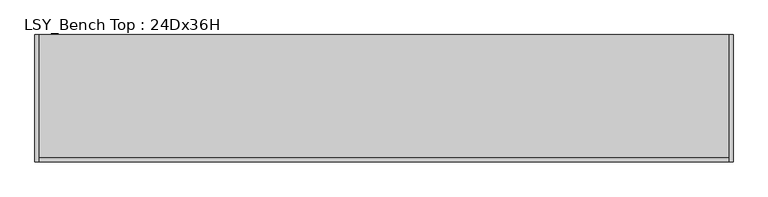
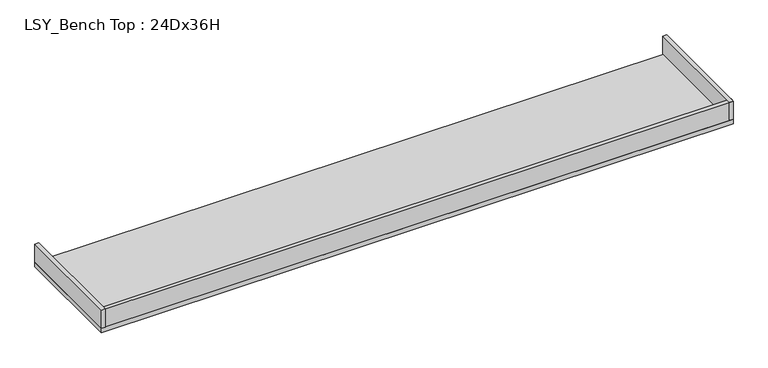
"""IFC4 building model written with IfcOpenShell, lengths in millimetres: furniture geometry, LSY_Bench Top : 24Dx36H."""

from ifc_helpers import new_model, si_unit, frame, origin, place, context, project, spatial, polyline, outline, extrude, source, transform, mapped, element, save


def lsy_bench_top_24dx36h_1d034a2a(model_context):
    return source(origin(), model_context, "Body", "SweptSolid", [
        extrude(outline(polyline([(2141.0627049, 615.0), (2122.0627049, 615.0), (2122.0627049, 1224.6), (2141.0627049, 1224.6), (2141.0627049, 615.0)])), frame((0.0, 0.0, 914.4), z_axis=(0.0, 0.0, 1.0), x_axis=(1.0, 0.0, 0.0)), (0.0, 0.0, 1.0), 102.0),
        extrude(outline(polyline([(-1200.4622951, 615.0), (-1200.4622951, 1224.6), (-1181.4622951, 1224.6), (-1181.4622951, 615.0), (-1200.4622951, 615.0)])), frame((0.0, 0.0, 914.4), z_axis=(0.0, 0.0, 1.0), x_axis=(1.0, 0.0, 0.0)), (0.0, 0.0, 1.0), 102.0),
        extrude(outline(polyline([(2141.0627049, 615.0), (-1200.4622951, 615.0), (-1200.4622951, 1224.6), (2141.0627049, 1224.6), (2141.0627049, 615.0)])), frame((0.0, 0.0, 889.0), z_axis=(0.0, 0.0, 1.0), x_axis=(1.0, 0.0, 0.0)), (0.0, 0.0, 1.0), 25.4),
        extrude(outline(polyline([(2141.0627049, 615.0), (-1200.4622951, 615.0), (-1200.4622951, 634.0), (2141.0627049, 634.0), (2141.0627049, 615.0)])), frame((0.0, 0.0, 914.4), z_axis=(0.0, 0.0, 1.0), x_axis=(1.0, 0.0, 0.0)), (0.0, 0.0, 1.0), 102.0),
    ])


if __name__ == "__main__":
    model = new_model("IFC4")
    model_context = context("Model", 3, world=origin())
    ifc_project = project(units=[si_unit("LENGTHUNIT", "METRE", prefix="MILLI")], contexts=[model_context])
    site = spatial("IfcSite", under=ifc_project)
    building = spatial("IfcBuilding", under=site)
    placement = place(None, origin())
    lsy_bench_top_24dx36h_shape = lsy_bench_top_24dx36h_1d034a2a(model_context)
    element("IfcFurniture", 1, ObjectType="LSY_Bench Top : 24Dx36H", at=placement, inside=building, context=model_context, shape_type="MappedRepresentation", body=[
        mapped(lsy_bench_top_24dx36h_shape, transform((0.0, 0.0, 0.0), x_axis=(1.0, 0.0, 0.0), y_axis=(0.0, 1.0, 0.0), z_axis=(0.0, 0.0, 1.0))),
    ])
    save(model, "model.ifc")
